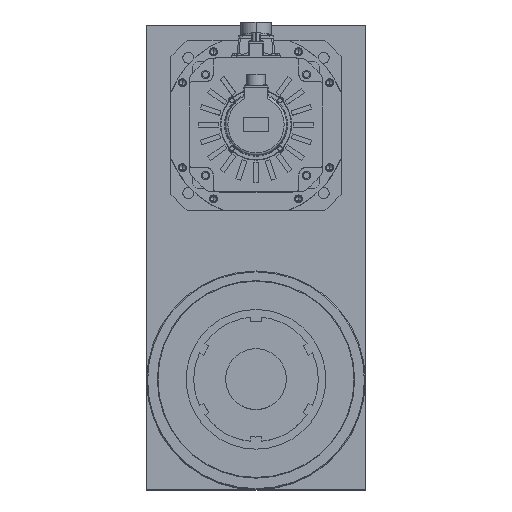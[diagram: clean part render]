
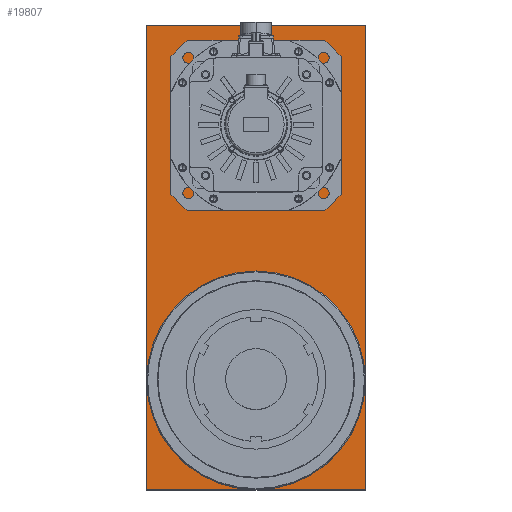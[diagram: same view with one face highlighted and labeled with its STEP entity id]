
A CAD part, top view. The second image highlights one B-rep face of the part: STEP entity #19807.
In plain terms, the highlighted planar face has unit normal (0, 0, 1).
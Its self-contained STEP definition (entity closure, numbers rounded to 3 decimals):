
#825 = AXIS2_PLACEMENT_3D ( 'NONE', #26165, #8073, #29078 ) ;
#867 = LINE ( 'NONE', #28210, #3243 ) ;
#939 = AXIS2_PLACEMENT_3D ( 'NONE', #11092, #29460, #35641 ) ;
#1797 = CIRCLE ( 'NONE', #23366, 178.5 ) ;
#1954 = FACE_OUTER_BOUND ( 'NONE', #26293, .T. ) ;
#2105 = EDGE_CURVE ( 'NONE', #27540, #35879, #867, .T. ) ;
#2123 = LINE ( 'NONE', #31684, #3088 ) ;
#2919 = ORIENTED_EDGE ( 'NONE', *, *, #26288, .T. ) ;
#3088 = VECTOR ( 'NONE', #25673, 1000. ) ;
#3243 = VECTOR ( 'NONE', #37072, 1000. ) ;
#3509 = EDGE_LOOP ( 'NONE', ( #21891, #11983 ) ) ;
#6162 = CARTESIAN_POINT ( 'NONE',  ( -180., 585., -220. ) ) ;
#6874 = EDGE_CURVE ( 'NONE', #29304, #13405, #31715, .T. ) ;
#7669 = LINE ( 'NONE', #11283, #16746 ) ;
#8073 = DIRECTION ( 'NONE',  ( 0., 0., 1. ) ) ;
#8849 = VECTOR ( 'NONE', #26053, 1000. ) ;
#9144 = EDGE_CURVE ( 'NONE', #32764, #19407, #7669, .T. ) ;
#10649 = EDGE_CURVE ( 'NONE', #13231, #30645, #27667, .T. ) ;
#11092 = CARTESIAN_POINT ( 'NONE',  ( 0., 0., -220. ) ) ;
#11283 = CARTESIAN_POINT ( 'NONE',  ( -180., 0., -220. ) ) ;
#11463 = CIRCLE ( 'NONE', #28104, 30. ) ;
#11857 = EDGE_LOOP ( 'NONE', ( #23563, #19583 ) ) ;
#11983 = ORIENTED_EDGE ( 'NONE', *, *, #6874, .F. ) ;
#12039 = CARTESIAN_POINT ( 'NONE',  ( 180., -180., -220. ) ) ;
#13040 = PLANE ( 'NONE',  #23036 ) ;
#13231 = VERTEX_POINT ( 'NONE', #20688 ) ;
#13405 = VERTEX_POINT ( 'NONE', #24301 ) ;
#13633 = LINE ( 'NONE', #38099, #8849 ) ;
#13769 = CARTESIAN_POINT ( 'NONE',  ( -30., 420., -220. ) ) ;
#14522 = EDGE_CURVE ( 'NONE', #30645, #13231, #1797, .T. ) ;
#16746 = VECTOR ( 'NONE', #18685, 1000. ) ;
#17052 = EDGE_CURVE ( 'NONE', #27540, #32764, #13633, .T. ) ;
#17365 = CARTESIAN_POINT ( 'NONE',  ( 0., 0., -220. ) ) ;
#17429 = CARTESIAN_POINT ( 'NONE',  ( 178.5, 0., -220. ) ) ;
#18685 = DIRECTION ( 'NONE',  ( 0., 1., 0. ) ) ;
#18817 = CARTESIAN_POINT ( 'NONE',  ( 0., 0., -220. ) ) ;
#19407 = VERTEX_POINT ( 'NONE', #6162 ) ;
#19583 = ORIENTED_EDGE ( 'NONE', *, *, #10649, .T. ) ;
#19807 = ADVANCED_FACE ( 'NONE', ( #31621, #23496, #1954 ), #13040, .F. ) ;
#20688 = CARTESIAN_POINT ( 'NONE',  ( -178.5, 0., -220. ) ) ;
#21891 = ORIENTED_EDGE ( 'NONE', *, *, #37892, .F. ) ;
#23036 = AXIS2_PLACEMENT_3D ( 'NONE', #18817, #34368, #25132 ) ;
#23299 = CARTESIAN_POINT ( 'NONE',  ( -180., -180., -220. ) ) ;
#23366 = AXIS2_PLACEMENT_3D ( 'NONE', #17365, #26518, #32763 ) ;
#23496 = FACE_BOUND ( 'NONE', #11857, .T. ) ;
#23563 = ORIENTED_EDGE ( 'NONE', *, *, #14522, .T. ) ;
#23801 = ORIENTED_EDGE ( 'NONE', *, *, #9144, .F. ) ;
#24301 = CARTESIAN_POINT ( 'NONE',  ( 30., 420., -220. ) ) ;
#25132 = DIRECTION ( 'NONE',  ( -1., 0., 0. ) ) ;
#25673 = DIRECTION ( 'NONE',  ( -1., 0., 0. ) ) ;
#26053 = DIRECTION ( 'NONE',  ( -1., 0., 0. ) ) ;
#26165 = CARTESIAN_POINT ( 'NONE',  ( 0., 420., -220. ) ) ;
#26288 = EDGE_CURVE ( 'NONE', #35879, #19407, #2123, .T. ) ;
#26293 = EDGE_LOOP ( 'NONE', ( #31542, #39278, #2919, #23801 ) ) ;
#26518 = DIRECTION ( 'NONE',  ( 0., 0., -1. ) ) ;
#27540 = VERTEX_POINT ( 'NONE', #12039 ) ;
#27667 = CIRCLE ( 'NONE', #939, 178.5 ) ;
#28104 = AXIS2_PLACEMENT_3D ( 'NONE', #30627, #39504, #36553 ) ;
#28210 = CARTESIAN_POINT ( 'NONE',  ( 180., 0., -220. ) ) ;
#29078 = DIRECTION ( 'NONE',  ( 1., 0., 0. ) ) ;
#29304 = VERTEX_POINT ( 'NONE', #13769 ) ;
#29460 = DIRECTION ( 'NONE',  ( 0., 0., -1. ) ) ;
#30627 = CARTESIAN_POINT ( 'NONE',  ( 0., 420., -220. ) ) ;
#30645 = VERTEX_POINT ( 'NONE', #17429 ) ;
#31542 = ORIENTED_EDGE ( 'NONE', *, *, #17052, .F. ) ;
#31586 = CARTESIAN_POINT ( 'NONE',  ( 180., 585., -220. ) ) ;
#31621 = FACE_BOUND ( 'NONE', #3509, .T. ) ;
#31684 = CARTESIAN_POINT ( 'NONE',  ( 0., 585., -220. ) ) ;
#31715 = CIRCLE ( 'NONE', #825, 30. ) ;
#32763 = DIRECTION ( 'NONE',  ( -1., 0., 0. ) ) ;
#32764 = VERTEX_POINT ( 'NONE', #23299 ) ;
#34368 = DIRECTION ( 'NONE',  ( 0., 0., -1. ) ) ;
#35641 = DIRECTION ( 'NONE',  ( -1., 0., 0. ) ) ;
#35879 = VERTEX_POINT ( 'NONE', #31586 ) ;
#36553 = DIRECTION ( 'NONE',  ( 1., 0., 0. ) ) ;
#37072 = DIRECTION ( 'NONE',  ( 0., 1., 0. ) ) ;
#37892 = EDGE_CURVE ( 'NONE', #13405, #29304, #11463, .T. ) ;
#38099 = CARTESIAN_POINT ( 'NONE',  ( 0., -180., -220. ) ) ;
#39278 = ORIENTED_EDGE ( 'NONE', *, *, #2105, .T. ) ;
#39504 = DIRECTION ( 'NONE',  ( 0., 0., 1. ) ) ;
